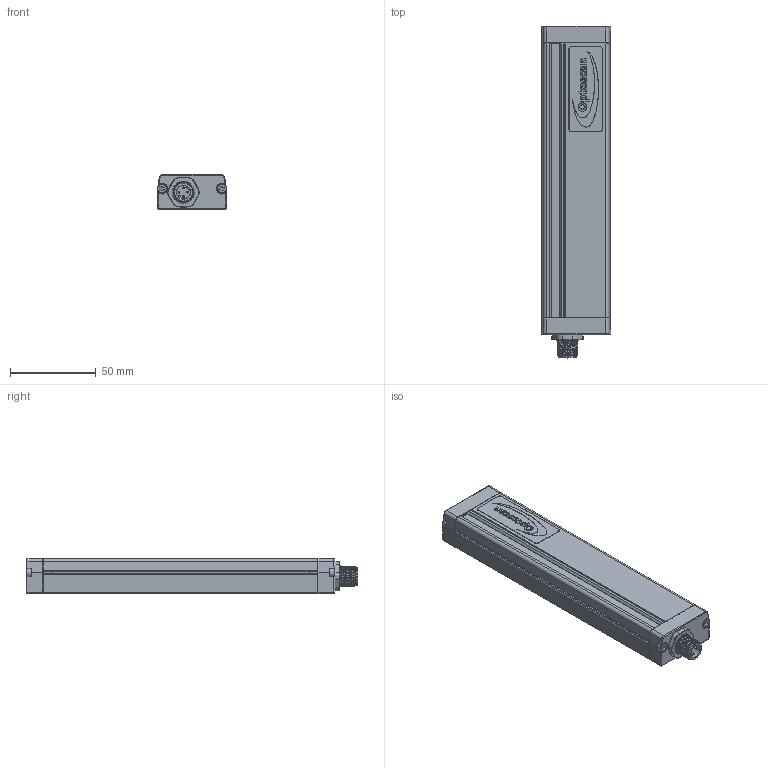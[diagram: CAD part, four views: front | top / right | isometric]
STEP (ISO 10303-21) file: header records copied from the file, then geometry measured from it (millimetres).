
FILE_DESCRIPTION(/* description */ (''),/* implementation_level */ '2;1');
FILE_NAME(/* name */ 'C:\Users\andre\SynologyDrive\Optoscan\Libreria Componenti\00 - Barriere\Barriera sorgente\Argo_160_TX.stp',/* time_stamp */ '2021-04-21T17:48:17+02:00',/* author */ ('andre'),/* organization */ (''),/* preprocessor_version */ 'ST-DEVELOPER v18',/* originating_system */ 'Autodesk Inventor 2020',/* authorisation */ '');
FILE_SCHEMA (('AUTOMOTIVE_DESIGN { 1 0 10303 214 3 1 1 }'));
Length unit declared in the file: millimetre
Products named in the file (1): Argo_160_TX
Bounding box: 40.5 x 193.3 x 20.75 mm (x, y, z)
Volume: 42673.7 mm3; surface area: 50536.2 mm2
Topology: 1 solids, 1 shells, 696 faces, 1911 edges, 1225 vertices
Faces by surface type: plane 321, cylinder 195, bspline 94, torus 72, cone 8, sphere 6
Full cylindrical faces by diameter (mm): 1 x4, 2.459 x4, 2.5 x4, 3 x4, 3.5 x4, 5.5 x4, 8 x1, 10.5 x2, 11.75 x9, 15.7 x1, 17.5 x1
Entity records: 30770 total; most frequent: CARTESIAN_POINT 12670, ORIENTED_EDGE 3806, DIRECTION 3415, EDGE_CURVE 1903, VERTEX_POINT 1225, AXIS2_PLACEMENT_3D 1193, LINE 1029, VECTOR 1029
